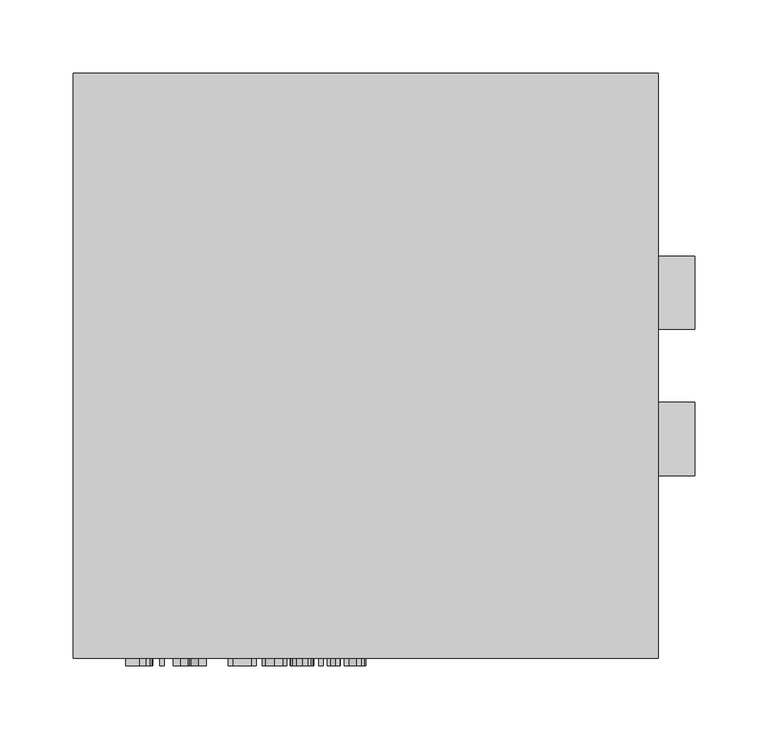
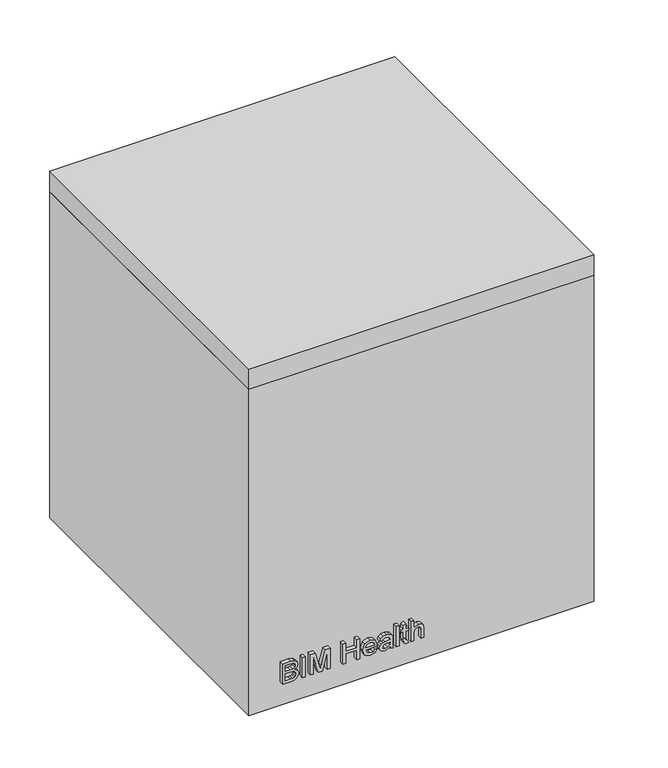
"""IFC4 building model written with IfcOpenShell, lengths in millimetres: proxy geometry, BIMHealth-Suction_Motor-LOD2A-v1 : BIMHealth-Suction_Motor-LOD2A-v1."""

import ifcopenshell
import ifcopenshell.guid

model = None  # the IFC model being written
_history = None  # IfcOwnerHistory: only IFC2X3 demands one
_inside = {}  # id of a spatial element -> (the spatial element, [elements in it])
_under = {}  # id of a project, library or spatial element -> (it, [spatial elements below it])
_declared = {}  # id of a project -> (the project, [libraries it declares])
_typed = {}  # id of a type object -> (the type object, [elements of that type])
_made_of = {}  # id of a material, layer set ... -> (it, [elements and type objects made of it])


def new_model(schema):
    """Start an empty IFC model of exactly this schema.

    Asked for "IFC4X3", IfcOpenShell would pick the latest addendum, in which some entities
    have other attributes; the version numbers below select the first issue.
    IFC2X3 requires an IfcOwnerHistory on every rooted entity: one is made here for all.
    """
    global model, _history
    if schema == "IFC4X3":
        model = ifcopenshell.file(schema_version=(4, 3, 0, 0))
    else:
        model = ifcopenshell.file(schema=schema)
    _inside.clear()
    _under.clear()
    _declared.clear()
    _typed.clear()
    _made_of.clear()
    _history = None
    if model.schema == "IFC2X3":
        org = make("IfcOrganization", Name="unknown")
        user = make(
            "IfcPersonAndOrganization",
            ThePerson=make("IfcPerson", FamilyName="unknown"),
            TheOrganization=org,
        )
        app = make(
            "IfcApplication",
            ApplicationDeveloper=org,
            Version="unknown",
            ApplicationFullName="unknown",
            ApplicationIdentifier="unknown",
        )
        _history = make(
            "IfcOwnerHistory",
            OwningUser=user,
            OwningApplication=app,
            ChangeAction="ADDED",
            CreationDate=0,
        )
    return model


def make(cls, **values):
    """One entity of the class cls with the attributes given. An attribute that is None is left unset."""
    return model.create_entity(
        cls, **{name: value for name, value in values.items() if value is not None}
    )


def rooted(cls, **values):
    """An entity with a GlobalId (a new one), such as an element, a storey or a relation."""
    return make(cls, GlobalId=ifcopenshell.guid.new(), OwnerHistory=_history, **values)


def si_unit(unit_type, name, prefix=None):
    """IfcSIUnit, for example si_unit("LENGTHUNIT", "METRE", prefix="MILLI")."""
    return make("IfcSIUnit", UnitType=unit_type, Prefix=prefix, Name=name)


def assignment(units):
    """IfcUnitAssignment: the units of a project."""
    return None if units is None else make("IfcUnitAssignment", Units=units)


def point(xyz):
    """IfcCartesianPoint."""
    return None if xyz is None else make("IfcCartesianPoint", Coordinates=xyz)


def direction(xyz):
    """IfcDirection."""
    return None if xyz is None else make("IfcDirection", DirectionRatios=xyz)


def frame(location, z_axis=None, x_axis=None):
    """IfcAxis2Placement3D, a coordinate frame: its origin and axes. An axis left out is left unset."""
    return make(
        "IfcAxis2Placement3D",
        Location=point(location),
        Axis=direction(z_axis),
        RefDirection=direction(x_axis),
    )


def frame_2d(location, x_axis=None):
    """IfcAxis2Placement2D, a coordinate frame in the plane: its origin and x axis."""
    return make(
        "IfcAxis2Placement2D", Location=point(location), RefDirection=direction(x_axis)
    )


def origin():
    """The frame at (0, 0, 0) with its axes left unset."""
    return frame((0.0, 0.0, 0.0))


def origin_with_axes():
    """The frame at (0, 0, 0) with the z axis (0, 0, 1) and the x axis (1, 0, 0) written out."""
    return frame((0.0, 0.0, 0.0), z_axis=(0.0, 0.0, 1.0), x_axis=(1.0, 0.0, 0.0))


def place(relative_to, where):
    """IfcLocalPlacement: puts the frame where relative to a parent placement (None: the world)."""
    return make(
        "IfcLocalPlacement", PlacementRelTo=relative_to, RelativePlacement=where
    )


def context(
    kind, dimensions, precision=None, world=None, true_north=None, identifier=None
):
    """IfcGeometricRepresentationContext, for example the 3D "Model" context."""
    return make(
        "IfcGeometricRepresentationContext",
        ContextIdentifier=identifier,
        ContextType=kind,
        CoordinateSpaceDimension=dimensions,
        Precision=precision,
        WorldCoordinateSystem=world,
        TrueNorth=true_north,
    )


def project(units=None, contexts=None):
    """IfcProject with its units and contexts."""
    return rooted(
        "IfcProject",
        Name="project",
        RepresentationContexts=contexts,
        UnitsInContext=assignment(units),
    )


def spatial(cls, under=None, at=None, **own):
    """A site, building, storey or space (cls), placed at a placement, below another one or the project."""
    s = rooted(cls, ObjectPlacement=at, **own)
    if under is not None:
        _under.setdefault(under.id(), (under, []))[1].append(s)
    return s


def polyline(points):
    """IfcPolyline through the points."""
    return make("IfcPolyline", Points=[point(p) for p in points])


def circle_curve(where, radius):
    """IfcCircle in the frame where."""
    return make("IfcCircle", Position=where, Radius=radius)


def trimmed(basis, trim1, trim2, sense, master):
    """IfcTrimmedCurve: the piece of a basis curve between two trims."""
    return make(
        "IfcTrimmedCurve",
        BasisCurve=basis,
        Trim1=trim1,
        Trim2=trim2,
        SenseAgreement=sense,
        MasterRepresentation=master,
    )


def segment(curve, same_sense, transition):
    """IfcCompositeCurveSegment."""
    return make(
        "IfcCompositeCurveSegment",
        Transition=transition,
        SameSense=same_sense,
        ParentCurve=curve,
    )


def composite_curve(segments, self_intersect=None):
    """IfcCompositeCurve: segments joined end to end."""
    return make("IfcCompositeCurve", Segments=segments, SelfIntersect=self_intersect)


def outline(outer, holes=None, kind="AREA"):
    """IfcArbitraryClosedProfileDef: a profile drawn as a closed curve; with holes, ...WithVoids."""
    if holes is None:
        return make("IfcArbitraryClosedProfileDef", ProfileType=kind, OuterCurve=outer)
    return make(
        "IfcArbitraryProfileDefWithVoids",
        ProfileType=kind,
        OuterCurve=outer,
        InnerCurves=holes,
    )


def extrude(swept, where, along, depth):
    """IfcExtrudedAreaSolid: the profile swept, set in the frame where, extruded along a direction by depth."""
    return make(
        "IfcExtrudedAreaSolid",
        SweptArea=swept,
        Position=where,
        ExtrudedDirection=direction(along),
        Depth=depth,
    )


def shape(context_of_items, identifier, shape_type, items):
    """IfcShapeRepresentation: the items that make up one representation, for example the "Body"."""
    return make(
        "IfcShapeRepresentation",
        ContextOfItems=context_of_items,
        RepresentationIdentifier=identifier,
        RepresentationType=shape_type,
        Items=items,
    )


def source(mapping_origin, context_of_items, identifier, shape_type, items):
    """IfcRepresentationMap: a shape defined once, which mapped items show again and again."""
    return make(
        "IfcRepresentationMap",
        MappingOrigin=mapping_origin,
        MappedRepresentation=shape(context_of_items, identifier, shape_type, items),
    )


def transform(
    local_origin,
    x_axis=None,
    y_axis=None,
    z_axis=None,
    scale=None,
    scale2=None,
    scale3=None,
    uniform=True,
):
    """IfcCartesianTransformationOperator3D, or its non-uniform kind. x_axis, y_axis, z_axis: its Axis1, 2, 3."""
    if uniform:
        return make(
            "IfcCartesianTransformationOperator3D",
            Axis1=direction(x_axis),
            Axis2=direction(y_axis),
            LocalOrigin=point(local_origin),
            Scale=scale,
            Axis3=direction(z_axis),
        )
    return make(
        "IfcCartesianTransformationOperator3DnonUniform",
        Axis1=direction(x_axis),
        Axis2=direction(y_axis),
        LocalOrigin=point(local_origin),
        Scale=scale,
        Axis3=direction(z_axis),
        Scale2=scale2,
        Scale3=scale3,
    )


def mapped(mapping_source, mapping_target):
    """IfcMappedItem: shows the shape of a source again, moved by a transform."""
    return make(
        "IfcMappedItem", MappingSource=mapping_source, MappingTarget=mapping_target
    )


def made_of(thing, what):
    """Note that an element or type object is made of a material, layer set ...; save() writes the relation."""
    if what is not None:
        _made_of.setdefault(what.id(), (what, []))[1].append(thing)
    return thing


def element(
    cls,
    number,
    at=None,
    inside=None,
    cuts=None,
    type_object=None,
    material=None,
    context=None,
    identifier="Body",
    shape_type=None,
    held_by="IfcProductDefinitionShape",
    body=None,
    shapes=None,
    **own,
):
    """One element of the class cls, such as IfcWall. Its Tag is "e" and its number.

    at: its placement. inside: the storey or other place that contains it. cuts: it is an
    opening in that element (IfcRelVoidsElement). A single representation is given by context,
    identifier, shape_type and body (its items); several are given by shapes. held_by: the class
    of the entity that holds the representations. save() writes the other relations.
    """
    e = rooted(cls, Tag="e%d" % number, ObjectPlacement=at, **own)
    if body is not None:
        shapes = [shape(context, identifier, shape_type, body)]
    if shapes is not None:
        e.Representation = make(held_by, Representations=shapes)
    if inside is not None:
        _inside.setdefault(inside.id(), (inside, []))[1].append(e)
    if cuts is not None:
        rooted(
            "IfcRelVoidsElement", RelatingBuildingElement=cuts, RelatedOpeningElement=e
        )
    if type_object is not None:
        _typed.setdefault(type_object.id(), (type_object, []))[1].append(e)
    return made_of(e, material)


def aggregate(whole, parts):
    """IfcRelAggregates: a whole, such as a stair, and the parts it consists of."""
    return rooted("IfcRelAggregates", RelatingObject=whole, RelatedObjects=parts)


def save(model, path):
    """Write the relations noted so far, then the file.

    IfcRelAggregates (storeys below a building ...), IfcRelContainedInSpatialStructure (elements
    in a storey), IfcRelDefinesByType, IfcRelAssociatesMaterial and IfcRelDeclares: one each for
    every whole, place, type object, material and project.
    """
    for whole, parts in _under.values():
        aggregate(whole, parts)
    for where, things in _inside.values():
        rooted(
            "IfcRelContainedInSpatialStructure",
            RelatedElements=things,
            RelatingStructure=where,
        )
    for kind, things in _typed.values():
        rooted("IfcRelDefinesByType", RelatedObjects=things, RelatingType=kind)
    for what, things in _made_of.values():
        rooted("IfcRelAssociatesMaterial", RelatedObjects=things, RelatingMaterial=what)
    for by, libraries in _declared.values():
        rooted("IfcRelDeclares", RelatingContext=by, RelatedDefinitions=libraries)
    model.write(path)


def generic_models_a235ff02(model_context):
    return source(origin(), model_context, "Body", "SweptSolid", [
        extrude(outline(polyline([(29.058433, -163.8891538), (29.058433, -154.5682404), (29.4821108, -150.6229279), (30.7321108, -147.9456442), (33.0878801, -146.151774), (36.3961733, -145.4276154), (40.2242983, -146.4883125), (42.5199714, -149.5201634), (44.698457, -147.0231682), (47.574058, -146.1968461), (50.7230964, -147.1794182), (52.9496589, -149.8957644), (53.6738176, -154.496125), (53.6738176, -163.8891538), (29.058433, -163.8891538)]), holes=[polyline([(43.6738176, -160.8122307), (50.5968945, -160.8122307), (50.5968945, -155.619923), (50.2753801, -151.6655961), (49.088481, -149.8927596), (47.0812695, -149.2737692), (45.0770628, -149.9378317), (43.9382406, -151.9119904), (43.6738176, -155.1932404), (43.6738176, -160.8122307)]), polyline([(32.135356, -160.8122307), (40.5968945, -160.8122307), (40.5968945, -154.8026154), (40.1852358, -151.0015336), (38.7579522, -149.0934807), (36.3661253, -148.5045384), (34.292808, -149.0063413), (32.9256205, -150.2863894), (32.2555483, -152.2184807), (32.135356, -154.5021346), (32.135356, -160.8122307)])]), frame((0.0, -205.0, 0.0), z_axis=(0.0, 1.0, 0.0), x_axis=(0.0, 0.0, 1.0)), (0.0, 0.0, 1.0), 5.0),
        extrude(outline(polyline([(-137.7353077, -205.0), (-140.8122307, -205.0), (-140.8122307, -200.0), (-137.7353077, -200.0), (-137.7353077, -205.0)])), frame((0.0, 0.0, 29.058433), z_axis=(0.0, 0.0, 1.0), x_axis=(1.0, 0.0, 0.0)), (0.0, 0.0, 1.0), 24.6153846),
        extrude(outline(polyline([(29.058433, -131.5814615), (29.058433, -128.5045384), (50.5968945, -128.5045384), (29.058433, -122.3146346), (29.058433, -118.1499711), (50.5968945, -111.9660769), (29.058433, -111.9660769), (29.058433, -108.8891538), (53.6738176, -108.8891538), (53.6738176, -114.183625), (36.6245387, -119.135548), (32.7002599, -120.2353077), (36.324058, -121.2569423), (53.6738176, -126.3050192), (53.6738176, -131.5814615), (29.058433, -131.5814615)])), frame((0.0, -205.0, 0.0), z_axis=(0.0, 1.0, 0.0), x_axis=(0.0, 0.0, 1.0)), (0.0, 0.0, 1.0), 5.0),
        extrude(outline(polyline([(29.058433, -93.8891538), (29.058433, -90.8122307), (40.5968945, -90.8122307), (40.5968945, -77.7353077), (29.058433, -77.7353077), (29.058433, -74.6583846), (53.6738176, -74.6583846), (53.6738176, -77.7353077), (43.6738176, -77.7353077), (43.6738176, -90.8122307), (53.6738176, -90.8122307), (53.6738176, -93.8891538), (29.058433, -93.8891538)])), frame((0.0, -205.0, 0.0), z_axis=(0.0, 1.0, 0.0), x_axis=(0.0, 0.0, 1.0)), (0.0, 0.0, 1.0), 5.0),
        extrude(outline(polyline([(34.4430483, -57.0021346), (32.3937695, -58.9853077), (31.7507406, -62.0021346), (33.1389618, -65.9654759), (37.135356, -67.7353077), (37.964683, -53.8891538), (45.0139618, -56.2238894), (47.5199714, -62.2365096), (45.0079522, -68.4264134), (37.9466541, -70.8122307), (31.1107166, -68.4504519), (28.6738176, -62.0622307), (30.0860772, -56.8068221), (34.058433, -53.9853077), (34.4430483, -57.0021346)]), holes=[polyline([(40.2122791, -67.7353077), (43.292207, -66.0375913), (44.4430483, -62.2485288), (43.0007406, -58.198048), (40.2122791, -56.9660769), (40.2122791, -67.7353077)])]), frame((0.0, -205.0, 0.0), z_axis=(0.0, 1.0, 0.0), x_axis=(0.0, 0.0, 1.0)), (0.0, 0.0, 1.0), 5.0),
        extrude(outline(polyline([(31.3661253, -39.2737692), (29.058433, -38.5045384), (29.058433, -35.4276154), (31.6455724, -36.0405961), (36.9911253, -36.1968461), (40.8192503, -36.1968461), (43.511558, -36.3470865), (45.5998993, -37.2905961), (46.9730964, -39.3969663), (47.5199714, -43.1259327), (46.900981, -47.1854279), (45.1401637, -49.8657163), (42.135356, -51.1968461), (41.7507406, -48.119923), (43.8511012, -46.635548), (44.4430483, -43.5225673), (43.5536253, -40.121125), (40.5968945, -39.291798), (39.5392022, -44.6283365), (39.0764618, -47.2905961), (38.0668464, -49.4450432), (36.3000195, -50.9925192), (33.8661253, -51.5814615), (30.1341541, -50.0219663), (28.6738176, -45.5538173), (29.2807887, -42.2575432), (31.3661253, -39.2737692)]), holes=[polyline([(37.0842743, -39.2827836), (34.2687695, -39.7785769), (32.4869185, -41.7857884), (31.7507406, -44.8987692), (32.417808, -47.5880721), (36.0776637, -46.8849471), (36.5764618, -44.2377115), (37.0842743, -39.2827836)])]), frame((0.0, -205.0, 0.0), z_axis=(0.0, 1.0, 0.0), x_axis=(0.0, 0.0, 1.0)), (0.0, 0.0, 1.0), 5.0),
        extrude(outline(polyline([(-28.8891538, -205.0), (-31.9660769, -205.0), (-31.9660769, -200.0), (-28.8891538, -200.0), (-28.8891538, -205.0)])), frame((0.0, 0.0, 29.058433), z_axis=(0.0, 0.0, 1.0), x_axis=(1.0, 0.0, 0.0)), (0.0, 0.0, 1.0), 24.6153846),
        extrude(outline(polyline([(32.0722551, -19.1926394), (34.1065099, -20.8122307), (44.058433, -20.8122307), (44.058433, -17.7353077), (47.135356, -17.7353077), (47.135356, -20.8122307), (53.3372791, -20.8122307), (51.5283849, -23.8891538), (47.135356, -23.8891538), (47.135356, -26.1968461), (44.058433, -26.1968461), (44.058433, -23.8891538), (34.0163656, -23.8891538), (30.5247791, -23.5165577), (29.1846349, -22.2305), (28.6738176, -19.652375), (28.9682887, -17.3506923), (32.0722551, -19.1926394)])), frame((0.0, -205.0, 0.0), z_axis=(0.0, 1.0, 0.0), x_axis=(0.0, 0.0, 1.0)), (0.0, 0.0, 1.0), 5.0),
        extrude(outline(polyline([(29.058433, -14.6583846), (29.058433, -11.5814615), (38.6617983, -11.5814615), (41.900981, -11.0796586), (43.7579522, -9.3969663), (44.4430483, -6.8759327), (43.4274233, -4.0994904), (40.182231, -3.119923), (29.058433, -3.119923), (29.058433, -0.043), (40.5007406, -0.043), (44.5452118, -0.6740096), (46.729707, -2.7713654), (47.5199714, -6.2268942), (44.6233368, -11.5814615), (53.6738176, -11.5814615), (53.6738176, -14.6583846), (29.058433, -14.6583846)])), frame((0.0, -205.0, 0.0), z_axis=(0.0, 1.0, 0.0), x_axis=(0.0, 0.0, 1.0)), (0.0, 0.0, 1.0), 5.0),
        extrude(outline(composite_curve([segment(trimmed(circle_curve(frame_2d((-50.0, 72.6756732)), 25.0), [point((-75.0, 72.6756732))], [point((-25.0, 72.6756732))], False, "CARTESIAN"), True, "CONTINUOUS"), segment(trimmed(circle_curve(frame_2d((-50.0, 72.6756732)), 25.0), [point((-25.0, 72.6756732))], [point((-75.0, 72.6756732))], False, "CARTESIAN"), True, "CONTINUOUS")], self_intersect=False), holes=[composite_curve([segment(trimmed(circle_curve(frame_2d((-50.0, 72.6756732)), 20.0), [point((-70.0, 72.6756732))], [point((-30.0, 72.6756732))], True, "CARTESIAN"), True, "CONTINUOUS"), segment(trimmed(circle_curve(frame_2d((-50.0, 72.6756732)), 20.0), [point((-30.0, 72.6756732))], [point((-70.0, 72.6756732))], True, "CARTESIAN"), True, "CONTINUOUS")], self_intersect=False)]), frame((200.0, 0.0, 0.0), z_axis=(1.0, 0.0, 0.0), x_axis=(0.0, 1.0, 0.0)), (0.0, 0.0, 1.0), 25.0),
        extrude(outline(composite_curve([segment(trimmed(circle_curve(frame_2d((50.0, 72.6756732)), 25.0), [point((75.0, 72.6756732))], [point((25.0, 72.6756732))], False, "CARTESIAN"), True, "CONTINUOUS"), segment(trimmed(circle_curve(frame_2d((50.0, 72.6756732)), 25.0), [point((25.0, 72.6756732))], [point((75.0, 72.6756732))], False, "CARTESIAN"), True, "CONTINUOUS")], self_intersect=False), holes=[composite_curve([segment(trimmed(circle_curve(frame_2d((50.0, 72.6756732)), 20.0), [point((70.0, 72.6756732))], [point((30.0, 72.6756732))], True, "CARTESIAN"), True, "CONTINUOUS"), segment(trimmed(circle_curve(frame_2d((50.0, 72.6756732)), 20.0), [point((30.0, 72.6756732))], [point((70.0, 72.6756732))], True, "CARTESIAN"), True, "CONTINUOUS")], self_intersect=False)]), frame((200.0, 0.0, 0.0), z_axis=(1.0, 0.0, 0.0), x_axis=(0.0, 1.0, 0.0)), (0.0, 0.0, 1.0), 25.0),
        extrude(outline(polyline([(200.0, 200.0), (200.0, -200.0), (-200.0, -200.0), (-200.0, 200.0), (200.0, 200.0)])), frame((0.0, 0.0, 400.0), z_axis=(0.0, 0.0, 1.0), x_axis=(1.0, 0.0, 0.0)), (0.0, 0.0, 1.0), 25.0),
        extrude(outline(polyline([(200.0, -200.0), (-200.0, -200.0), (-200.0, 200.0), (200.0, 200.0), (200.0, -200.0)])), origin_with_axes(), (0.0, 0.0, 1.0), 400.0),
    ])


if __name__ == "__main__":
    model = new_model("IFC4")
    model_context = context("Model", 3, world=origin())
    ifc_project = project(units=[si_unit("LENGTHUNIT", "METRE", prefix="MILLI")], contexts=[model_context])
    site = spatial("IfcSite", under=ifc_project)
    building = spatial("IfcBuilding", under=site)
    placement = place(None, origin())
    generic_models_shape = generic_models_a235ff02(model_context)
    element("IfcBuildingElementProxy", 1, Name="BIMHealth-Suction_Motor-LOD2A-v1 : BIMHealth-Suction_Motor-LOD2A-v1", ObjectType="BIMHealth-Suction_Motor-LOD2A-v1 : BIMHealth-Suction_Motor-LOD2A-v1", at=placement, inside=building, context=model_context, shape_type="MappedRepresentation", body=[
        mapped(generic_models_shape, transform((0.0, 0.0, 0.0), x_axis=(1.0, 0.0, 0.0), y_axis=(0.0, 1.0, 0.0), z_axis=(0.0, 0.0, 1.0))),
    ])
    save(model, "model.ifc")
